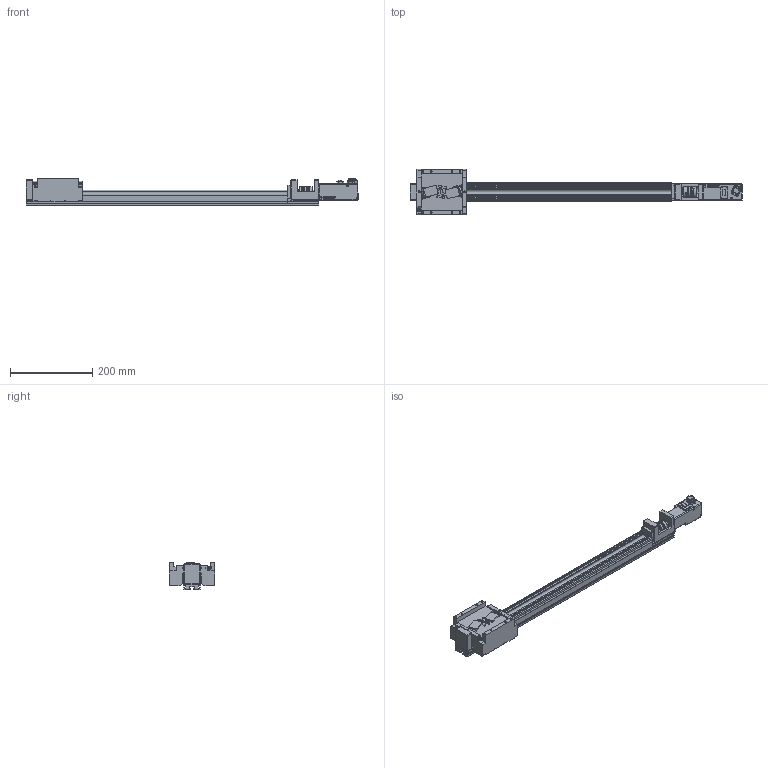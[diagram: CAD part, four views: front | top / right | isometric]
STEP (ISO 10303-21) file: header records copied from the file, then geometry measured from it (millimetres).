
FILE_DESCRIPTION(/* description */ (''),/* implementation_level */ '2;1');
FILE_NAME(/* name */ 'D:\내가 좋아하는 폴더\\X2\C704B108B9C8CF00D305\X0\\홈페이지용stp file\\X2\D648D398C774C9C0C6A9\X0\ 도면\BE40\BE40\X2\D648D398C774C9C0B3C4BA74\X0\\BE40-S10-500-1210.stp',/* time_stamp */ '2020-10-26T11:21:48+09:00',/* author */ ('user'),/* organization */ (''),/* preprocessor_version */ 'ST-DEVELOPER v16.1',/* originating_system */ 'Autodesk Inventor 2016',/* authorisation */ '');
FILE_SCHEMA (('AUTOMOTIVE_DESIGN { 1 0 10303 214 3 1 1 }'));
Products named in the file (4): BE40-베이스조정용-단일화; BE40-길이조정용-BK부; BE40-slider-단일화; BE40-S10-500-1210
Assembly tree (3 placements, depth 2):
  BE40-S10-500-1210
    BE40-베이스조정용-단일화
    BE40-길이조정용-BK부
    BE40-slider-단일화
Bounding box: 808.2 x 110 x 68 mm (x, y, z)
Volume: 1469587.6 mm3; surface area: 320313.8 mm2
Topology: 3 solids, 11 shells, 1516 faces, 4135 edges, 2641 vertices
Faces by surface type: plane 834, cylinder 458, torus 118, cone 94, bspline 11, sphere 1
Full cylindrical faces by diameter (mm): 3 x7, 3.242 x8, 4 x2, 4.4 x16, 4.5 x8, 4.917 x5, 5.4 x4, 5.6 x8, 6 x4, 7 x2, 8 x12, 9.85 x1, 10.8 x2, 12 x18, 19 x8, 20 x1, 22 x2, 25.5 x2, 26 x3, 28 x1
Entity records: 51665 total; most frequent: CARTESIAN_POINT 12766, DIRECTION 7719, ORIENTED_EDGE 7600, EDGE_CURVE 3794, AXIS2_PLACEMENT_3D 2678, VERTEX_POINT 2551, LINE 2363, VECTOR 2363
